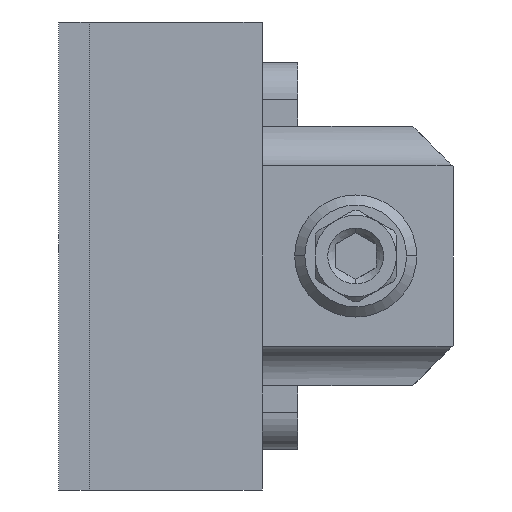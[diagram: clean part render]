
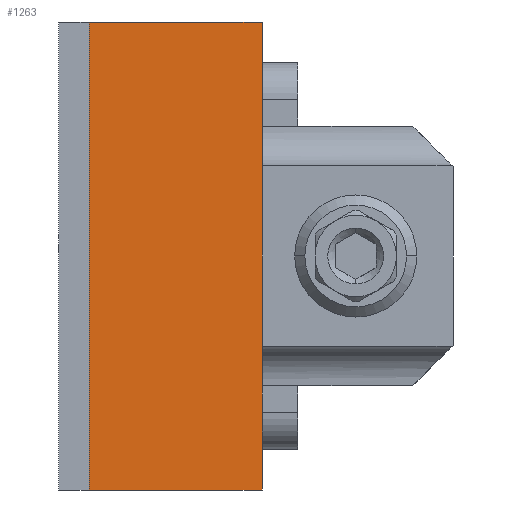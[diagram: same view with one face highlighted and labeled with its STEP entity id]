
A CAD part, left-side view. The second image highlights one B-rep face of the part: STEP entity #1263.
In plain terms, the highlighted planar face has unit normal (-1, 0, 0).
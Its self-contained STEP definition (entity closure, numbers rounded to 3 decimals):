
#326 = VECTOR ( 'NONE', #2598, 1000. ) ;
#330 = DIRECTION ( 'NONE',  ( 0., 0., 1. ) ) ;
#411 = VECTOR ( 'NONE', #3071, 1000. ) ;
#436 = EDGE_CURVE ( 'NONE', #4800, #3869, #634, .T. ) ;
#452 = EDGE_CURVE ( 'NONE', #1893, #2097, #2674, .T. ) ;
#634 = LINE ( 'NONE', #4661, #411 ) ;
#664 = ORIENTED_EDGE ( 'NONE', *, *, #452, .T. ) ;
#807 = ORIENTED_EDGE ( 'NONE', *, *, #1037, .T. ) ;
#1022 = EDGE_LOOP ( 'NONE', ( #664, #807, #1571, #4535 ) ) ;
#1037 = EDGE_CURVE ( 'NONE', #2097, #4800, #2643, .T. ) ;
#1072 = DIRECTION ( 'NONE',  ( 0., 0., 1. ) ) ;
#1240 = EDGE_CURVE ( 'NONE', #1893, #3869, #2618, .T. ) ;
#1263 = ADVANCED_FACE ( 'NONE', ( #2905 ), #2221, .T. ) ;
#1353 = AXIS2_PLACEMENT_3D ( 'NONE', #2281, #4345, #330 ) ;
#1571 = ORIENTED_EDGE ( 'NONE', *, *, #436, .T. ) ;
#1754 = VECTOR ( 'NONE', #1072, 1000. ) ;
#1889 = CARTESIAN_POINT ( 'NONE',  ( -10., 9.2, 23. ) ) ;
#1893 = VERTEX_POINT ( 'NONE', #4152 ) ;
#2097 = VERTEX_POINT ( 'NONE', #3822 ) ;
#2221 = PLANE ( 'NONE',  #1353 ) ;
#2281 = CARTESIAN_POINT ( 'NONE',  ( -10., 5.7, -23. ) ) ;
#2309 = CARTESIAN_POINT ( 'NONE',  ( -10., 29.2, -23. ) ) ;
#2598 = DIRECTION ( 'NONE',  ( 0., -1., 0. ) ) ;
#2618 = LINE ( 'NONE', #3769, #2684 ) ;
#2643 = LINE ( 'NONE', #3858, #1754 ) ;
#2674 = LINE ( 'NONE', #2309, #326 ) ;
#2684 = VECTOR ( 'NONE', #4222, 1000. ) ;
#2905 = FACE_OUTER_BOUND ( 'NONE', #1022, .T. ) ;
#3071 = DIRECTION ( 'NONE',  ( 0., 1., 0. ) ) ;
#3230 = CARTESIAN_POINT ( 'NONE',  ( -10., 26.2, 23. ) ) ;
#3769 = CARTESIAN_POINT ( 'NONE',  ( -10., 26.2, -23. ) ) ;
#3822 = CARTESIAN_POINT ( 'NONE',  ( -10., 9.2, -23. ) ) ;
#3858 = CARTESIAN_POINT ( 'NONE',  ( -10., 9.2, 19. ) ) ;
#3869 = VERTEX_POINT ( 'NONE', #3230 ) ;
#4152 = CARTESIAN_POINT ( 'NONE',  ( -10., 26.2, -23. ) ) ;
#4222 = DIRECTION ( 'NONE',  ( 0., 0., 1. ) ) ;
#4345 = DIRECTION ( 'NONE',  ( -1., 0., 0. ) ) ;
#4535 = ORIENTED_EDGE ( 'NONE', *, *, #1240, .F. ) ;
#4661 = CARTESIAN_POINT ( 'NONE',  ( -10., 9.2, 23. ) ) ;
#4800 = VERTEX_POINT ( 'NONE', #1889 ) ;
